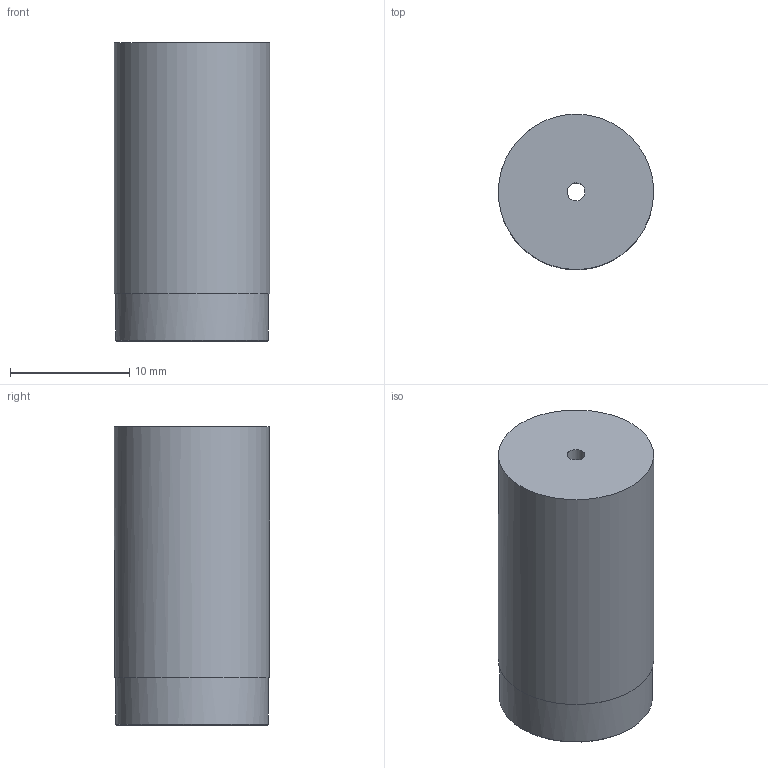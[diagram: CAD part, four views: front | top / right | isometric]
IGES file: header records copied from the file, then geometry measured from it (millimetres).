
Start section: C
Global section: file name: MSPBSC130825.igs; native system: By Siemens PLM Incorporated; preprocessor: XPlus GENERIC/IGES 18.0.17; author: Author; organization: Title; date: 20240726.162239; units: millimetre
Bounding box: 13 x 12.99 x 25 mm (x, y, z)
Volume: 2446.2 mm3; surface area: 1741.8 mm2
Topology: 1 solids, 1 shells, 283 faces, 735 edges, 490 vertices
Faces by surface type: bspline 283
